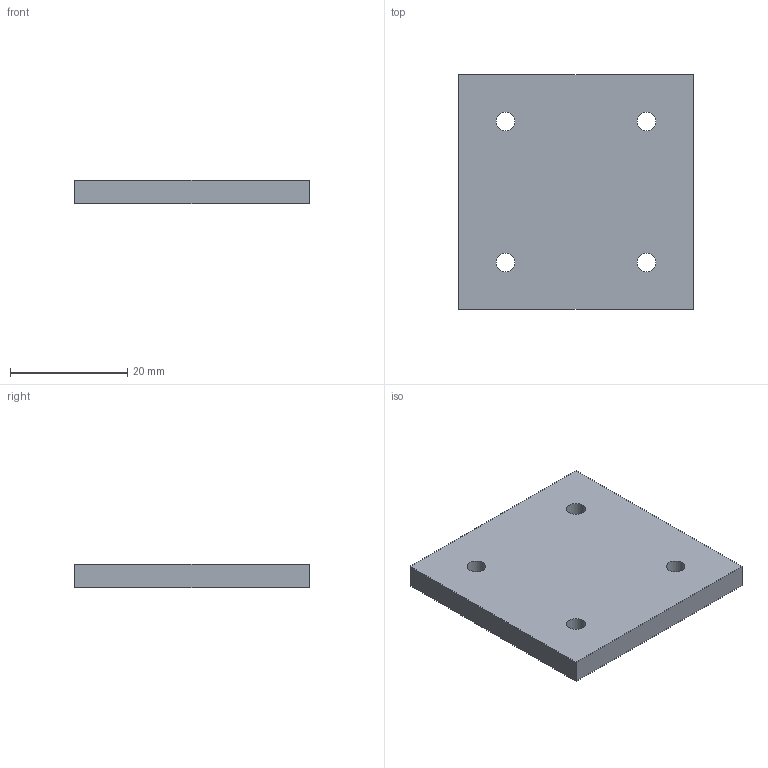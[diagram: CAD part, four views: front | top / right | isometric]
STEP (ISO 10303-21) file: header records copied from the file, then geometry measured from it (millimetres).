
FILE_DESCRIPTION(('Open CASCADE Model'),'2;1');
FILE_NAME('Open CASCADE Shape Model','2026-09-04T19:26:44',('Author'),( 'Open CASCADE'),'Open CASCADE STEP processor 7.9','Open CASCADE 7.9' ,'Unknown');
FILE_SCHEMA(('AUTOMOTIVE_DESIGN { 1 0 10303 214 1 1 1 1 }'));
Length unit declared in the file: millimetre
Products named in the file (1): COMPOUND
Bounding box: 40 x 40 x 4 mm (x, y, z)
Volume: 6271.3 mm3; surface area: 3936.5 mm2
Topology: 1 solids, 1 shells, 10 faces, 24 edges, 16 vertices
Faces by surface type: plane 6, cylinder 4
Full cylindrical faces by diameter (mm): 3.2 x4
Entity records: 650 total; most frequent: DIRECTION 102, CARTESIAN_POINT 99, LINE 56, VECTOR 56, ORIENTED_EDGE 48, PCURVE 48, DEFINITIONAL_REPRESENTATION 48, EDGE_CURVE 24
